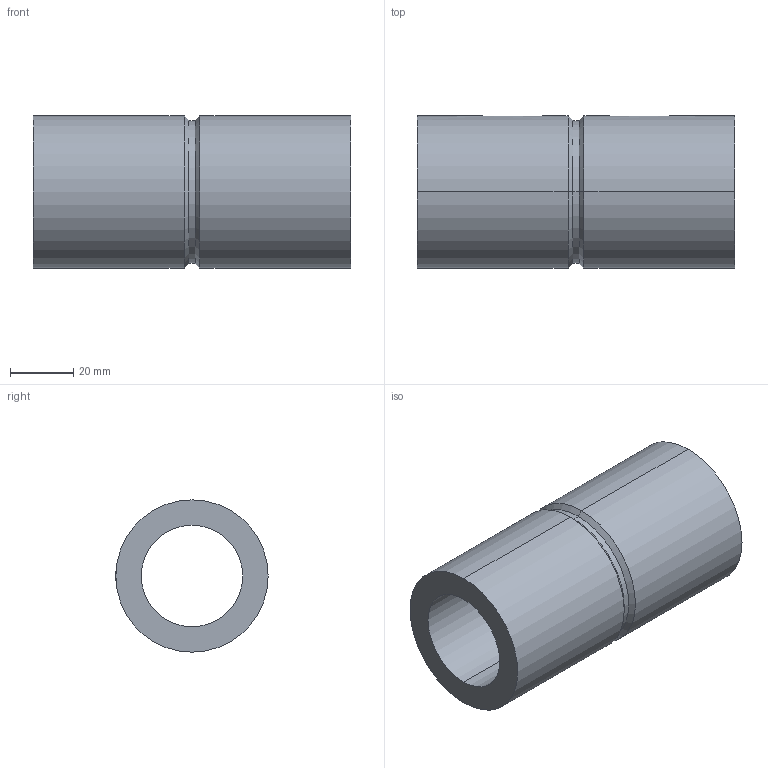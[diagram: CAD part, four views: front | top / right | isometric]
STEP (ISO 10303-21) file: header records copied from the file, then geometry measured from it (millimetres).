
FILE_DESCRIPTION (( 'STEP AP203' ), '1' );
FILE_NAME ('ZD3205-R-5EF.STEP', '2002-08-15T11:55:28', ( '.' ), ( '.' ), 'SwSTEP 2.0', 'SolidWorks 2001340', '' );
FILE_SCHEMA (( 'CONFIG_CONTROL_DESIGN' ));
Length unit declared in the file: millimetre
Products named in the file (1): ZD3205-R-5EF
Bounding box: 100 x 48 x 48 mm (x, y, z)
Volume: 99397.1 mm3; surface area: 27499.3 mm2
Topology: 1 solids, 1 shells, 24 faces, 52 edges, 32 vertices
Faces by surface type: cylinder 12, plane 8, cone 4
Entity records: 833 total; most frequent: CARTESIAN_POINT 217, DIRECTION 118, ORIENTED_EDGE 104, EDGE_CURVE 52, AXIS2_PLACEMENT_3D 45, VERTEX_POINT 32, EDGE_LOOP 28, LINE 28
